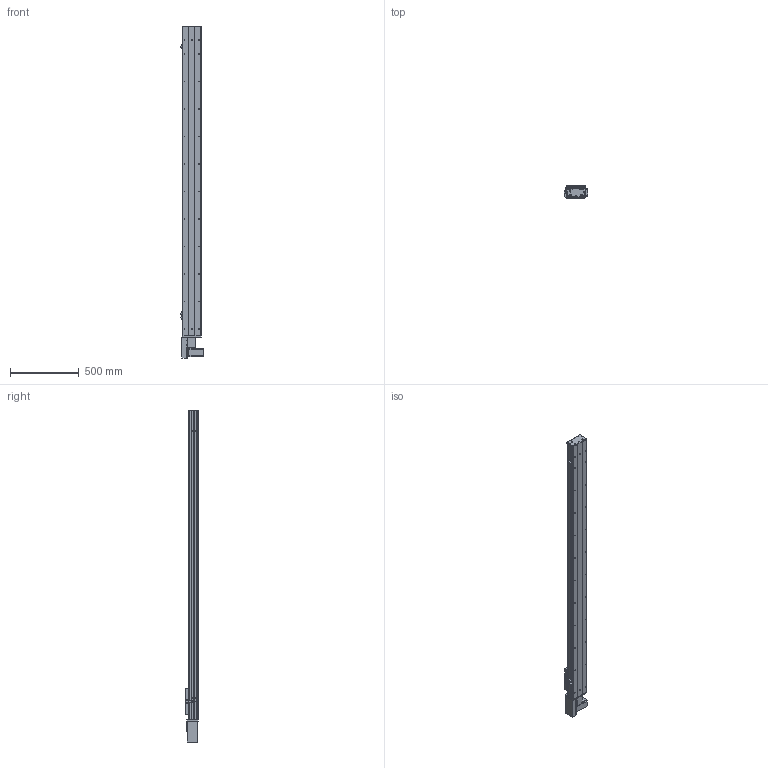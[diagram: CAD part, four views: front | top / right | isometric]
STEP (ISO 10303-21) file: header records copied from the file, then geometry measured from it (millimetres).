
FILE_DESCRIPTION (( 'STEP AP203' ), '1' );
FILE_NAME ('Y135CB-D90-S1950-BR-P400W.STEP', '2020-02-18T02:53:24', ( '微软用户' ), ( '微软中国' ), 'SwSTEP 2.0', 'SolidWorks 2017', '' );
FILE_SCHEMA (( 'CONFIG_CONTROL_DESIGN' ));
Length unit declared in the file: millimetre
Products named in the file (18): Y135CB-D90-S1950-BR-P400W; 5CB --掛极耜裔啣-; 135CB---遴掛极.-; C-詩湍揤踡え-陔; 35CB---喘謫眊楊擘啣; 135CB--詩湍-CE; Y10B-耜蚾蟀諉啣----; Y100-135俋离換覜ん--; Y俋欶BR----; Y135C-陔俋离換覜結え-; 0B-埴倛裔啣; 5C--俋欶; 0B-源倛裔啣; C-雄赽釱--; 0B-萇儂楊擘啣; Y10B--々湍喘謫眊--666; san松下电机400不带刹车----; Y135CB-耜裔
Assembly tree (21 placements, depth 2):
  Y135CB-D90-S1950-BR-P400W
    Y135CB-耜裔
    135CB---遴掛极.-
    35CB---喘謫眊楊擘啣
    Y10B-耜蚾蟀諉啣----
    Y俋欶BR----
    0B-埴倛裔啣
    0B-源倛裔啣
    0B-萇儂楊擘啣
    san松下电机400不带刹车----
    5CB --掛极耜裔啣-  x2
    C-詩湍揤踡え-陔  x2
    135CB--詩湍-CE
    Y100-135俋离換覜ん--  x3
    Y135C-陔俋离換覜結え-
    5C--俋欶
    C-雄赽釱--
    Y10B--々湍喘謫眊--666
Bounding box: 167.5 x 91 x 2414.5 mm (x, y, z)
Volume: 6854311.1 mm3; surface area: 2707747.5 mm2
Topology: 21 solids, 21 shells, 965 faces, 2617 edges, 1734 vertices
Faces by surface type: cylinder 491, plane 458, cone 16
Entity records: 30351 total; most frequent: DIRECTION 5041, CARTESIAN_POINT 5032, ORIENTED_EDGE 4710, EDGE_CURVE 2355, AXIS2_PLACEMENT_3D 1843, VERTEX_POINT 1562, LINE 1355, VECTOR 1355
